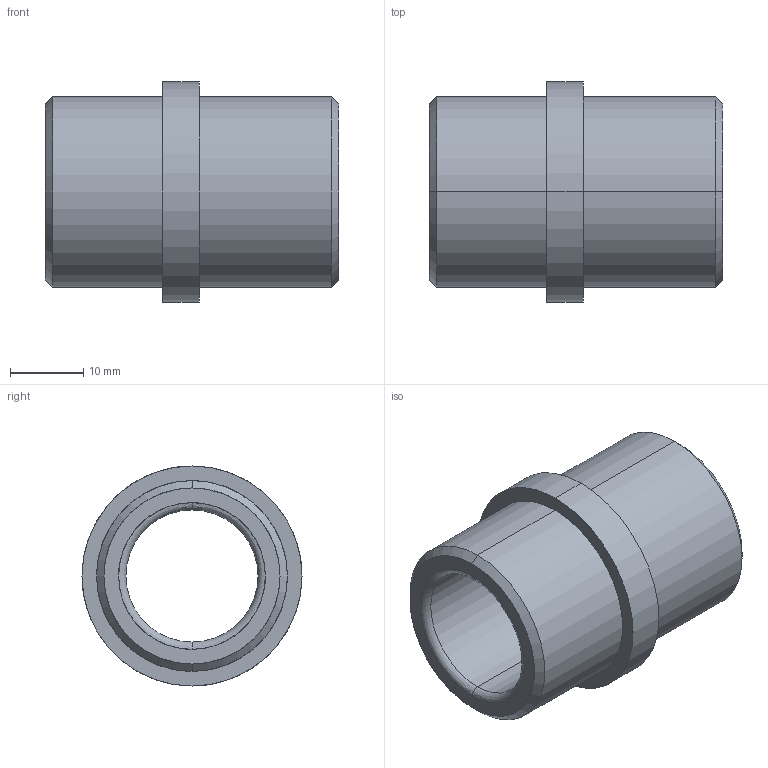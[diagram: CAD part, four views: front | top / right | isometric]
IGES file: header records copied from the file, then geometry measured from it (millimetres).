
Start section: START RECORD GO HERE.
Global section: file name: 355-18X40.igs; native system: DASSAULT SYSTEMES CATIA V5 R20 - www.3ds.com; preprocessor: CATIA Version 5 Release 20 ; author: Utente; organization: NB04-ASUS; date: 20210421.105637; units: millimetre
Bounding box: 40 x 30 x 30 mm (x, y, z)
Surface area: 6350.9 mm2 (no closed solid volume)
Topology: 0 solids, 0 shells, 20 faces, 128 edges, 128 vertices
Faces by surface type: revolution 16, plane 4
